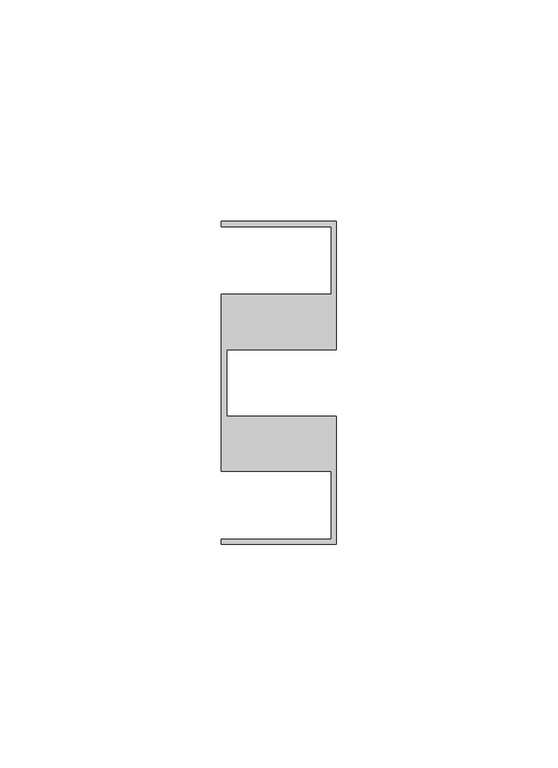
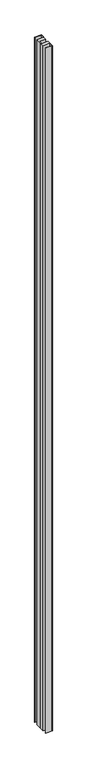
"""IFC4 building model written with IfcOpenShell, lengths in millimetres: member geometry, Прямоугольный импост : 10-AMG-2-Профиль 26Х73 Верх П."""

from ifc_helpers import new_model, si_unit, frame, origin, place, context, project, spatial, polyline, outline, extrude, source, transform, mapped, element, save


def member_520df2a5(model_context):
    return source(origin(), model_context, "Body", "SweptSolid", [
        extrude(outline(polyline([(-26.0, 36.5), (0.0, 36.5), (0.0, 7.5116043), (-24.8, 7.5116043), (-24.8, 0.0), (-24.8, -7.5116043), (0.0, -7.5116043), (0.0, -36.5), (-26.0, -36.5), (-26.0, -35.3116043), (-1.2, -35.3116043), (-1.2, -20.0), (-26.0, -20.0), (-26.0, 0.0), (-26.0, 20.0), (-1.2, 20.0), (-1.2, 35.3), (-26.0, 35.3), (-26.0, 36.5)])), frame((0.0, 0.0, -2800.0), z_axis=(0.0, 0.0, 1.0), x_axis=(1.0, 0.0, 0.0)), (0.0, 0.0, 1.0), 2800.0),
    ])


if __name__ == "__main__":
    model = new_model("IFC4")
    model_context = context("Model", 3, world=origin())
    ifc_project = project(units=[si_unit("LENGTHUNIT", "METRE", prefix="MILLI")], contexts=[model_context])
    site = spatial("IfcSite", under=ifc_project)
    building = spatial("IfcBuilding", under=site)
    placement = place(None, origin())
    member_shape = member_520df2a5(model_context)
    element("IfcMember", 1, ObjectType="Прямоугольный импост : 10-AMG-2-Профиль 26Х73 Верх П", at=placement, inside=building, context=model_context, shape_type="MappedRepresentation", body=[
        mapped(member_shape, transform((0.0, 0.0, 0.0), x_axis=(1.0, 0.0, 0.0), y_axis=(0.0, 1.0, 0.0), z_axis=(0.0, 0.0, 1.0))),
    ])
    save(model, "model.ifc")
